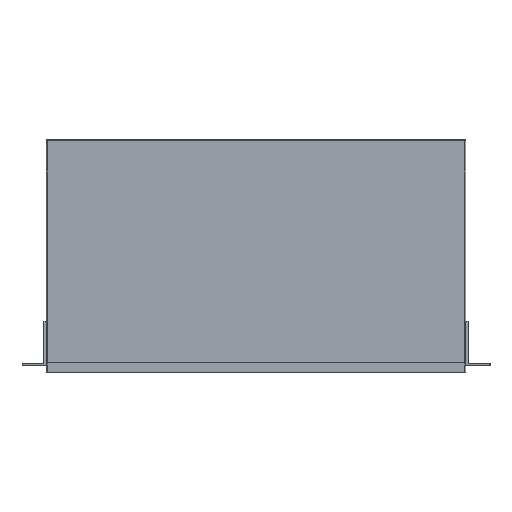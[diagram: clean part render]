
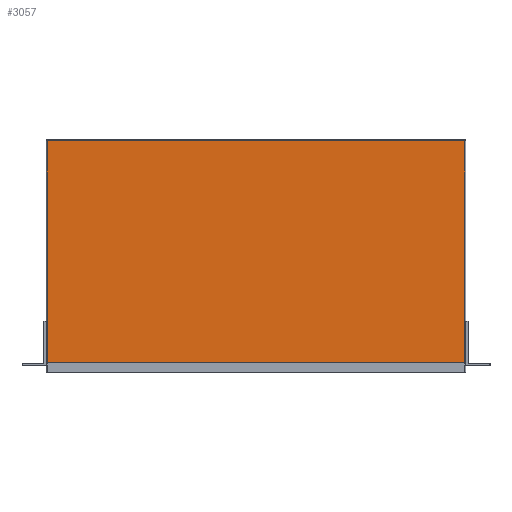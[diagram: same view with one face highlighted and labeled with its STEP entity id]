
A CAD part, top view. The second image highlights one B-rep face of the part: STEP entity #3057.
In plain terms, the highlighted planar face has unit normal (0, 0, 1).
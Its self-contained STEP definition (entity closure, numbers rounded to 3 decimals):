
#72 = CYLINDRICAL_SURFACE('',#73,1.);
#73 = AXIS2_PLACEMENT_3D('',#74,#75,#76);
#74 = CARTESIAN_POINT('',(-215.5,114.,43.));
#75 = DIRECTION('',(1.,0.,0.));
#76 = DIRECTION('',(0.,1.,0.));
#1173 = VERTEX_POINT('',#1174);
#1174 = CARTESIAN_POINT('',(-215.5,114.,44.));
#1196 = EDGE_CURVE('',#1173,#1197,#1199,.T.);
#1197 = VERTEX_POINT('',#1198);
#1198 = CARTESIAN_POINT('',(215.5,114.,44.));
#1199 = SURFACE_CURVE('',#1200,(#1204,#1211),.PCURVE_S1.);
#1200 = LINE('',#1201,#1202);
#1201 = CARTESIAN_POINT('',(-215.5,114.,44.));
#1202 = VECTOR('',#1203,1.);
#1203 = DIRECTION('',(1.,0.,0.));
#1204 = PCURVE('',#72,#1205);
#1205 = DEFINITIONAL_REPRESENTATION('',(#1206),#1210);
#1206 = LINE('',#1207,#1208);
#1207 = CARTESIAN_POINT('',(1.571,0.));
#1208 = VECTOR('',#1209,1.);
#1209 = DIRECTION('',(0.,1.));
#1210 = ( GEOMETRIC_REPRESENTATION_CONTEXT(2) 
PARAMETRIC_REPRESENTATION_CONTEXT() REPRESENTATION_CONTEXT('2D SPACE',''
  ) );
#1211 = PCURVE('',#1212,#1217);
#1212 = PLANE('',#1213);
#1213 = AXIS2_PLACEMENT_3D('',#1214,#1215,#1216);
#1214 = CARTESIAN_POINT('',(0.,0.,44.));
#1215 = DIRECTION('',(-0.,-0.,-1.));
#1216 = DIRECTION('',(-1.,0.,0.));
#1217 = DEFINITIONAL_REPRESENTATION('',(#1218),#1222);
#1218 = LINE('',#1219,#1220);
#1219 = CARTESIAN_POINT('',(215.5,114.));
#1220 = VECTOR('',#1221,1.);
#1221 = DIRECTION('',(-1.,0.));
#1222 = ( GEOMETRIC_REPRESENTATION_CONTEXT(2) 
PARAMETRIC_REPRESENTATION_CONTEXT() REPRESENTATION_CONTEXT('2D SPACE',''
  ) );
#2889 = PLANE('',#2890);
#2890 = AXIS2_PLACEMENT_3D('',#2891,#2892,#2893);
#2891 = CARTESIAN_POINT('',(216.5,-115.,0.));
#2892 = DIRECTION('',(0.,-1.,0.));
#2893 = DIRECTION('',(-1.,0.,0.));
#2915 = CYLINDRICAL_SURFACE('',#2916,1.);
#2916 = AXIS2_PLACEMENT_3D('',#2917,#2918,#2919);
#2917 = CARTESIAN_POINT('',(-215.5,-115.,43.));
#2918 = DIRECTION('',(0.,1.,0.));
#2919 = DIRECTION('',(-1.,0.,0.));
#3057 = ADVANCED_FACE('',(#3058),#1212,.F.);
#3058 = FACE_BOUND('',#3059,.F.);
#3059 = EDGE_LOOP('',(#3060,#3083,#3084,#3112));
#3060 = ORIENTED_EDGE('',*,*,#3061,.T.);
#3061 = EDGE_CURVE('',#3062,#1173,#3064,.T.);
#3062 = VERTEX_POINT('',#3063);
#3063 = CARTESIAN_POINT('',(-215.5,-115.,44.));
#3064 = SURFACE_CURVE('',#3065,(#3069,#3076),.PCURVE_S1.);
#3065 = LINE('',#3066,#3067);
#3066 = CARTESIAN_POINT('',(-215.5,-115.,44.));
#3067 = VECTOR('',#3068,1.);
#3068 = DIRECTION('',(0.,1.,0.));
#3069 = PCURVE('',#1212,#3070);
#3070 = DEFINITIONAL_REPRESENTATION('',(#3071),#3075);
#3071 = LINE('',#3072,#3073);
#3072 = CARTESIAN_POINT('',(215.5,-115.));
#3073 = VECTOR('',#3074,1.);
#3074 = DIRECTION('',(0.,1.));
#3075 = ( GEOMETRIC_REPRESENTATION_CONTEXT(2) 
PARAMETRIC_REPRESENTATION_CONTEXT() REPRESENTATION_CONTEXT('2D SPACE',''
  ) );
#3076 = PCURVE('',#2915,#3077);
#3077 = DEFINITIONAL_REPRESENTATION('',(#3078),#3082);
#3078 = LINE('',#3079,#3080);
#3079 = CARTESIAN_POINT('',(1.571,0.));
#3080 = VECTOR('',#3081,1.);
#3081 = DIRECTION('',(0.,1.));
#3082 = ( GEOMETRIC_REPRESENTATION_CONTEXT(2) 
PARAMETRIC_REPRESENTATION_CONTEXT() REPRESENTATION_CONTEXT('2D SPACE',''
  ) );
#3083 = ORIENTED_EDGE('',*,*,#1196,.T.);
#3084 = ORIENTED_EDGE('',*,*,#3085,.T.);
#3085 = EDGE_CURVE('',#1197,#3086,#3088,.T.);
#3086 = VERTEX_POINT('',#3087);
#3087 = CARTESIAN_POINT('',(215.5,-115.,44.));
#3088 = SURFACE_CURVE('',#3089,(#3093,#3100),.PCURVE_S1.);
#3089 = LINE('',#3090,#3091);
#3090 = CARTESIAN_POINT('',(215.5,115.,44.));
#3091 = VECTOR('',#3092,1.);
#3092 = DIRECTION('',(0.,-1.,0.));
#3093 = PCURVE('',#1212,#3094);
#3094 = DEFINITIONAL_REPRESENTATION('',(#3095),#3099);
#3095 = LINE('',#3096,#3097);
#3096 = CARTESIAN_POINT('',(-215.5,115.));
#3097 = VECTOR('',#3098,1.);
#3098 = DIRECTION('',(0.,-1.));
#3099 = ( GEOMETRIC_REPRESENTATION_CONTEXT(2) 
PARAMETRIC_REPRESENTATION_CONTEXT() REPRESENTATION_CONTEXT('2D SPACE',''
  ) );
#3100 = PCURVE('',#3101,#3106);
#3101 = CYLINDRICAL_SURFACE('',#3102,1.);
#3102 = AXIS2_PLACEMENT_3D('',#3103,#3104,#3105);
#3103 = CARTESIAN_POINT('',(215.5,115.,43.));
#3104 = DIRECTION('',(0.,-1.,0.));
#3105 = DIRECTION('',(1.,0.,0.));
#3106 = DEFINITIONAL_REPRESENTATION('',(#3107),#3111);
#3107 = LINE('',#3108,#3109);
#3108 = CARTESIAN_POINT('',(1.571,0.));
#3109 = VECTOR('',#3110,1.);
#3110 = DIRECTION('',(0.,1.));
#3111 = ( GEOMETRIC_REPRESENTATION_CONTEXT(2) 
PARAMETRIC_REPRESENTATION_CONTEXT() REPRESENTATION_CONTEXT('2D SPACE',''
  ) );
#3112 = ORIENTED_EDGE('',*,*,#3113,.T.);
#3113 = EDGE_CURVE('',#3086,#3062,#3114,.T.);
#3114 = SURFACE_CURVE('',#3115,(#3119,#3126),.PCURVE_S1.);
#3115 = LINE('',#3116,#3117);
#3116 = CARTESIAN_POINT('',(216.5,-115.,44.));
#3117 = VECTOR('',#3118,1.);
#3118 = DIRECTION('',(-1.,0.,0.));
#3119 = PCURVE('',#1212,#3120);
#3120 = DEFINITIONAL_REPRESENTATION('',(#3121),#3125);
#3121 = LINE('',#3122,#3123);
#3122 = CARTESIAN_POINT('',(-216.5,-115.));
#3123 = VECTOR('',#3124,1.);
#3124 = DIRECTION('',(1.,0.));
#3125 = ( GEOMETRIC_REPRESENTATION_CONTEXT(2) 
PARAMETRIC_REPRESENTATION_CONTEXT() REPRESENTATION_CONTEXT('2D SPACE',''
  ) );
#3126 = PCURVE('',#2889,#3127);
#3127 = DEFINITIONAL_REPRESENTATION('',(#3128),#3132);
#3128 = LINE('',#3129,#3130);
#3129 = CARTESIAN_POINT('',(0.,-44.));
#3130 = VECTOR('',#3131,1.);
#3131 = DIRECTION('',(1.,0.));
#3132 = ( GEOMETRIC_REPRESENTATION_CONTEXT(2) 
PARAMETRIC_REPRESENTATION_CONTEXT() REPRESENTATION_CONTEXT('2D SPACE',''
  ) );
